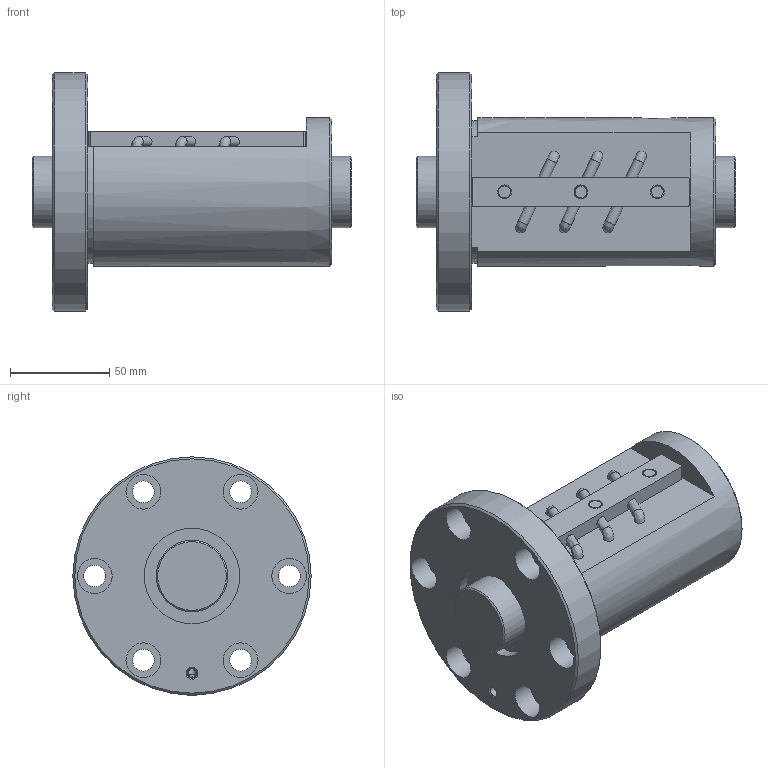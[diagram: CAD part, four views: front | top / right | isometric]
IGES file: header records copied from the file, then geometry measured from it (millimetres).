
Start section: Data from Parasolid IGES Translator 26.0.171, Copyright(c) 2006 Siemens PLM Software. All Rights Reserved.
Global section: file name: BNF3610V-7.5RRG1+161LC0_000_rev.igs; native system: By Siemens PLM Incorporated; preprocessor: XPlus GENERIC/IGES 26.0.171; author: Noname; organization: Noname; date: 20240806.083917; units: millimetre
Bounding box: 161 x 120 x 120 mm (x, y, z)
Surface area: 100903.5 mm2 (no closed solid volume)
Topology: 0 solids, 0 shells, 86 faces, 428 edges, 384 vertices
Faces by surface type: revolution 56, extrusion 30
